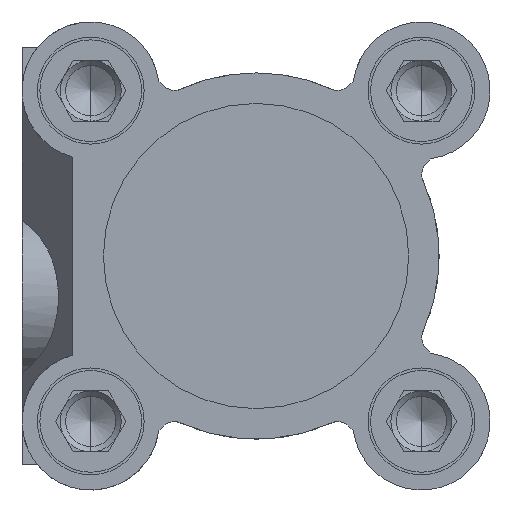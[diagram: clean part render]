
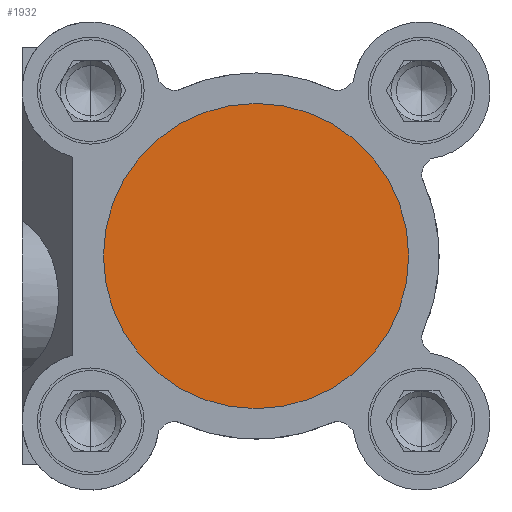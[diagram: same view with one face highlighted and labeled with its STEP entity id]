
A CAD part, left-side view. The second image highlights one B-rep face of the part: STEP entity #1932.
In plain terms, the highlighted planar face has unit normal (-1, 0, 0).
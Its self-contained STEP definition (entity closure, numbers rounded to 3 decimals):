
#618 = CARTESIAN_POINT ( 'NONE',  ( -198., 0., -15. ) ) ;
#659 = DIRECTION ( 'NONE',  ( 0., 0., -1. ) ) ;
#742 = DIRECTION ( 'NONE',  ( 0., 0., 1. ) ) ;
#807 = CARTESIAN_POINT ( 'NONE',  ( -198., 0., 0. ) ) ;
#1029 = EDGE_CURVE ( 'NONE', #9545, #1091, #2863, .T. ) ;
#1091 = VERTEX_POINT ( 'NONE', #6583 ) ;
#1932 = ADVANCED_FACE ( 'NONE', ( #7816 ), #2488, .F. ) ;
#1965 = AXIS2_PLACEMENT_3D ( 'NONE', #807, #9803, #742 ) ;
#2343 = CIRCLE ( 'NONE', #1965, 15. ) ;
#2488 = PLANE ( 'NONE',  #6760 ) ;
#2863 = CIRCLE ( 'NONE', #5885, 15. ) ;
#2911 = DIRECTION ( 'NONE',  ( 0., 0., 1. ) ) ;
#3827 = ORIENTED_EDGE ( 'NONE', *, *, #1029, .T. ) ;
#5148 = CARTESIAN_POINT ( 'NONE',  ( -198., 15., 0. ) ) ;
#5885 = AXIS2_PLACEMENT_3D ( 'NONE', #7418, #11031, #2911 ) ;
#6583 = CARTESIAN_POINT ( 'NONE',  ( -198., 0., 15. ) ) ;
#6760 = AXIS2_PLACEMENT_3D ( 'NONE', #5148, #8764, #659 ) ;
#7418 = CARTESIAN_POINT ( 'NONE',  ( -198., 0., 0. ) ) ;
#7467 = EDGE_CURVE ( 'NONE', #1091, #9545, #2343, .T. ) ;
#7816 = FACE_OUTER_BOUND ( 'NONE', #10058, .T. ) ;
#8764 = DIRECTION ( 'NONE',  ( 1., 0., 0. ) ) ;
#9366 = ORIENTED_EDGE ( 'NONE', *, *, #7467, .T. ) ;
#9545 = VERTEX_POINT ( 'NONE', #618 ) ;
#9803 = DIRECTION ( 'NONE',  ( -1., 0., 0. ) ) ;
#10058 = EDGE_LOOP ( 'NONE', ( #9366, #3827 ) ) ;
#11031 = DIRECTION ( 'NONE',  ( -1., 0., 0. ) ) ;
